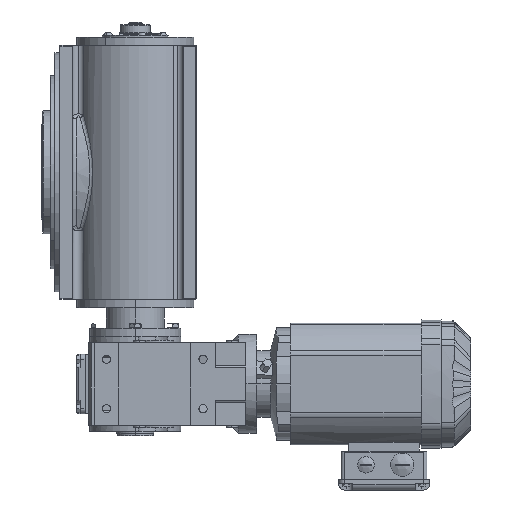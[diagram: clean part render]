
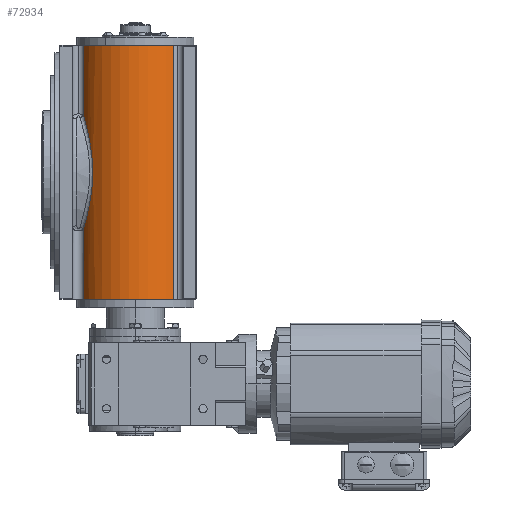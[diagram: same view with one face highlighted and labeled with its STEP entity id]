
A CAD part, left-side view. The second image highlights one B-rep face of the part: STEP entity #72934.
In plain terms, the highlighted cylindrical face has radius 71 mm (diameter 142 mm), a partial arc.
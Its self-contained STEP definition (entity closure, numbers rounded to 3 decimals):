
#418 = CARTESIAN_POINT ( 'NONE',  ( -132.999, 134.023, -58.167 ) ) ;
#565 = DIRECTION ( 'NONE',  ( 1., 0., 0. ) ) ;
#840 = EDGE_CURVE ( 'NONE', #92302, #88084, #71548, .T. ) ;
#864 = CARTESIAN_POINT ( 'NONE',  ( -95., 74., -154. ) ) ;
#1331 = CARTESIAN_POINT ( 'NONE',  ( -142.199, 127.041, -24.119 ) ) ;
#3535 = ORIENTED_EDGE ( 'NONE', *, *, #92304, .T. ) ;
#3673 = CYLINDRICAL_SURFACE ( 'NONE', #81889, 71. ) ;
#4729 = DIRECTION ( 'NONE',  ( 0., 0., 1. ) ) ;
#4773 = CARTESIAN_POINT ( 'NONE',  ( -128.109, 136.808, 154. ) ) ;
#6475 = CARTESIAN_POINT ( 'NONE',  ( -141.327, 127.831, 29.758 ) ) ;
#6922 = CARTESIAN_POINT ( 'NONE',  ( -142.826, 126.476, -19.641 ) ) ;
#7535 = DIRECTION ( 'NONE',  ( 0., 0., 1. ) ) ;
#7844 = DIRECTION ( 'NONE',  ( 0., 0., 1. ) ) ;
#8272 = CARTESIAN_POINT ( 'NONE',  ( -135.977, 131.984, 49.755 ) ) ;
#9695 = ORIENTED_EDGE ( 'NONE', *, *, #840, .T. ) ;
#13476 = CARTESIAN_POINT ( 'NONE',  ( -137.325, 131.008, 45.529 ) ) ;
#14851 = CARTESIAN_POINT ( 'NONE',  ( -128.109, 136.808, -68.859 ) ) ;
#15285 = CARTESIAN_POINT ( 'NONE',  ( -143.713, 125.653, 10.36 ) ) ;
#15736 = DIRECTION ( 'NONE',  ( 1., 0., 0. ) ) ;
#17024 = ORIENTED_EDGE ( 'NONE', *, *, #74721, .F. ) ;
#19938 = DIRECTION ( 'NONE',  ( 0., 0., 1. ) ) ;
#20922 = CARTESIAN_POINT ( 'NONE',  ( -138.57, 130.069, 41.275 ) ) ;
#23891 = EDGE_CURVE ( 'NONE', #39441, #25315, #41606, .T. ) ;
#25315 = VERTEX_POINT ( 'NONE', #4773 ) ;
#26079 = ORIENTED_EDGE ( 'NONE', *, *, #60204, .T. ) ;
#29278 = CARTESIAN_POINT ( 'NONE',  ( -144.04, 125.343, -6.17 ) ) ;
#29739 = DIRECTION ( 'NONE',  ( 0., 0., 1. ) ) ;
#29864 = CIRCLE ( 'NONE', #82154, 71. ) ;
#32085 = AXIS2_PLACEMENT_3D ( 'NONE', #864, #7844, #15736 ) ;
#32407 = VECTOR ( 'NONE', #4729, 1000. ) ;
#34951 = CARTESIAN_POINT ( 'NONE',  ( -138.584, 130.076, -41.542 ) ) ;
#35425 = CARTESIAN_POINT ( 'NONE',  ( -148.721, 27.577, 154. ) ) ;
#35887 = CARTESIAN_POINT ( 'NONE',  ( -143.2, 126.132, 16.387 ) ) ;
#36352 = CARTESIAN_POINT ( 'NONE',  ( -130.725, 135.429, 63.555 ) ) ;
#36809 = CARTESIAN_POINT ( 'NONE',  ( -143.967, 125.413, 5.846 ) ) ;
#36893 = DIRECTION ( 'NONE',  ( 0., 0., -1. ) ) ;
#39441 = VERTEX_POINT ( 'NONE', #67664 ) ;
#41337 = ORIENTED_EDGE ( 'NONE', *, *, #23891, .F. ) ;
#41606 = LINE ( 'NONE', #61746, #32407 ) ;
#42442 = CARTESIAN_POINT ( 'NONE',  ( -144.049, 125.334, 2.839 ) ) ;
#42888 = CARTESIAN_POINT ( 'NONE',  ( -148.721, 27.577, -154. ) ) ;
#42912 = VERTEX_POINT ( 'NONE', #35425 ) ;
#43052 = CARTESIAN_POINT ( 'NONE',  ( -95., 74., 154. ) ) ;
#43843 = CARTESIAN_POINT ( 'NONE',  ( -143.607, 125.753, 11.865 ) ) ;
#49909 = CARTESIAN_POINT ( 'NONE',  ( -140.598, 128.429, -32.922 ) ) ;
#50809 = CARTESIAN_POINT ( 'NONE',  ( -136.889, 131.329, 46.942 ) ) ;
#54136 = EDGE_CURVE ( 'NONE', #67932, #42912, #78396, .T. ) ;
#57356 = CARTESIAN_POINT ( 'NONE',  ( -135.5, 132.319, 51.157 ) ) ;
#58259 = CARTESIAN_POINT ( 'NONE',  ( -142.345, 126.918, 23.884 ) ) ;
#59492 = VECTOR ( 'NONE', #36893, 1000. ) ;
#60204 = EDGE_CURVE ( 'NONE', #39441, #92302, #87820, .T. ) ;
#61746 = CARTESIAN_POINT ( 'NONE',  ( -128.109, 136.808, -500000. ) ) ;
#63491 = CARTESIAN_POINT ( 'NONE',  ( -136.93, 131.346, -47.157 ) ) ;
#63962 = CARTESIAN_POINT ( 'NONE',  ( -141.192, 127.924, -30.015 ) ) ;
#64432 = CARTESIAN_POINT ( 'NONE',  ( -139.32, 129.475, 38.415 ) ) ;
#64896 = CARTESIAN_POINT ( 'NONE',  ( -130.722, 135.43, -63.561 ) ) ;
#65204 = CARTESIAN_POINT ( 'NONE',  ( -148.721, 27.577, -154. ) ) ;
#65921 = CARTESIAN_POINT ( 'NONE',  ( -128.109, 136.808, 500000. ) ) ;
#67664 = CARTESIAN_POINT ( 'NONE',  ( -128.109, 136.808, 68.859 ) ) ;
#67932 = VERTEX_POINT ( 'NONE', #65204 ) ;
#70538 = CARTESIAN_POINT ( 'NONE',  ( -128.109, 136.808, 68.859 ) ) ;
#70992 = CARTESIAN_POINT ( 'NONE',  ( -143.351, 125.993, 14.878 ) ) ;
#71254 = VECTOR ( 'NONE', #29739, 1000. ) ;
#71548 = LINE ( 'NONE', #65921, #59492 ) ;
#71841 = ORIENTED_EDGE ( 'NONE', *, *, #54136, .T. ) ;
#72381 = CARTESIAN_POINT ( 'NONE',  ( -141.962, 127.251, -25.6 ) ) ;
#72456 = CIRCLE ( 'NONE', #32085, 71. ) ;
#72934 = ADVANCED_FACE ( 'NONE', ( #88215 ), #3673, .T. ) ;
#74721 = EDGE_CURVE ( 'NONE', #25315, #42912, #29864, .T. ) ;
#75597 = CARTESIAN_POINT ( 'NONE',  ( -95., 74., -154. ) ) ;
#77960 = CARTESIAN_POINT ( 'NONE',  ( -143.692, 125.681, -12.164 ) ) ;
#78396 = LINE ( 'NONE', #42888, #71254 ) ;
#79322 = CARTESIAN_POINT ( 'NONE',  ( -128.109, 136.808, -68.859 ) ) ;
#81889 = AXIS2_PLACEMENT_3D ( 'NONE', #75597, #19938, #84000 ) ;
#82154 = AXIS2_PLACEMENT_3D ( 'NONE', #43052, #7535, #565 ) ;
#84000 = DIRECTION ( 'NONE',  ( 1., 0., 0. ) ) ;
#84531 = CARTESIAN_POINT ( 'NONE',  ( -128.109, 136.808, -154. ) ) ;
#86801 = CARTESIAN_POINT ( 'NONE',  ( -142.631, 126.653, -21.138 ) ) ;
#87474 = EDGE_LOOP ( 'NONE', ( #41337, #26079, #9695, #3535, #71841, #17024 ) ) ;
#87820 = B_SPLINE_CURVE_WITH_KNOTS ( 'NONE', 3,
 ( #70538, #36352, #92416, #57356, #8272, #50809, #13476, #20922, #64432, #6475, #58259, #35887, #70992, #43843, #15285, #36809, #42442, #29278, #77960, #6922, #86801, #1331, #72381, #63962, #49909, #34951, #63491, #418, #64896, #79322 ),
 .UNSPECIFIED., .F., .F.,
 ( 4, 2, 2, 2, 2, 2, 2, 2, 2, 2, 2, 2, 2, 2, 4 ),
 ( 0., 0.018, 0.023, 0.027, 0.036, 0.055, 0.059, 0.064, 0.073, 0.091, 0.095, 0.1, 0.109, 0.127, 0.145 ),
 .UNSPECIFIED. ) ;
#88084 = VERTEX_POINT ( 'NONE', #84531 ) ;
#88215 = FACE_OUTER_BOUND ( 'NONE', #87474, .T. ) ;
#92302 = VERTEX_POINT ( 'NONE', #14851 ) ;
#92304 = EDGE_CURVE ( 'NONE', #88084, #67932, #72456, .T. ) ;
#92416 = CARTESIAN_POINT ( 'NONE',  ( -133.018, 134.012, 58.125 ) ) ;
